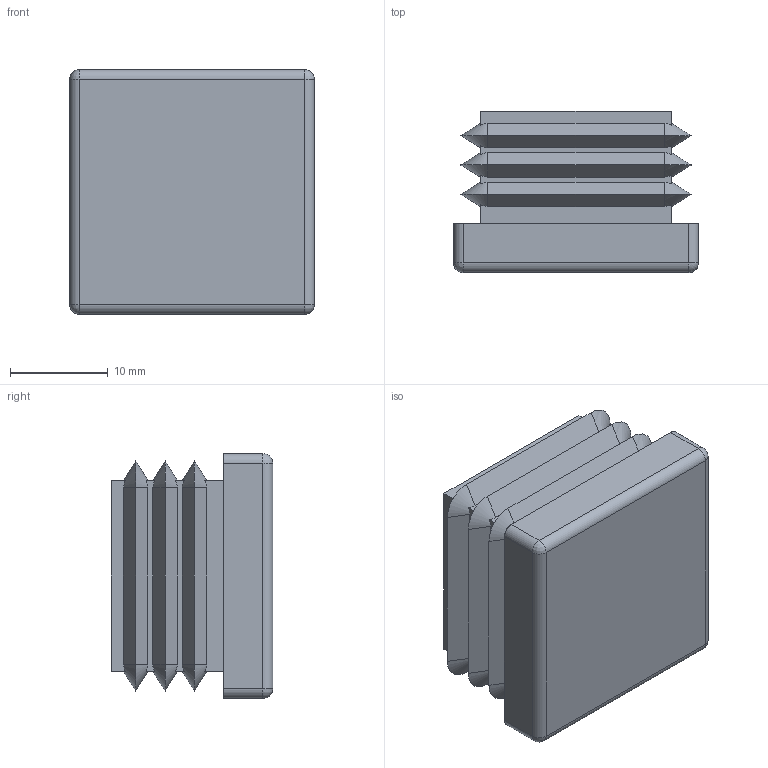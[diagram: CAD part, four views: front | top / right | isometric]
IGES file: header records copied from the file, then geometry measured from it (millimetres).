
Start section: SolidWorks IGES file using analytic representation for surfaces
Global section: file name: C:\HEMSIDA\cad\SLDPRT_2015\ifr\\ifr_25.igs; native system: SolidWorks 2015; preprocessor: SolidWorks 2015; author: Magnus; date: 150818.111755; units: millimetre
Bounding box: 25 x 16.5 x 25 mm (x, y, z)
Surface area: 3987.6 mm2 (no closed solid volume)
Topology: 0 solids, 0 shells, 88 faces, 659 edges, 655 vertices
Faces by surface type: bspline 52, revolution 36
